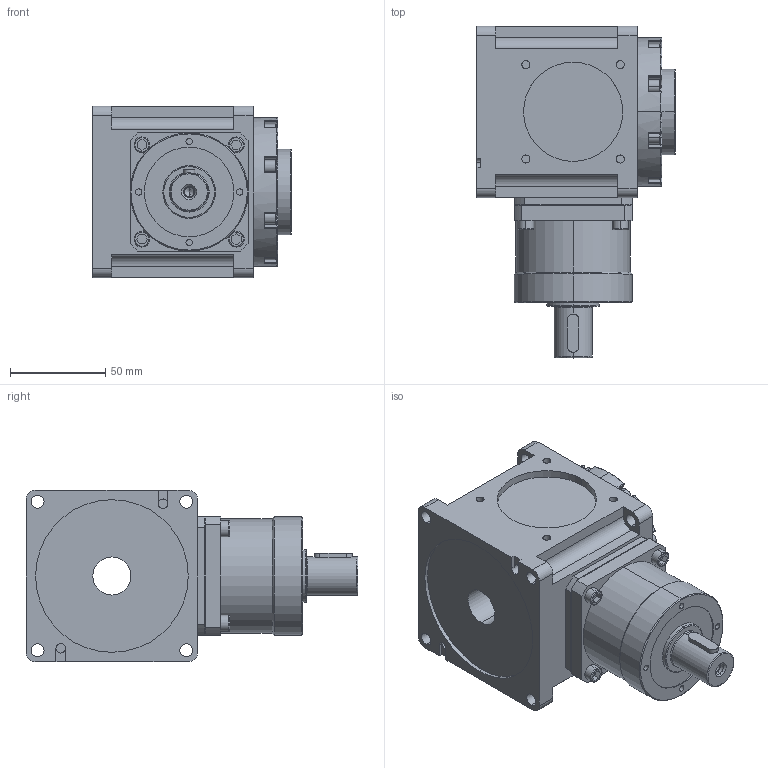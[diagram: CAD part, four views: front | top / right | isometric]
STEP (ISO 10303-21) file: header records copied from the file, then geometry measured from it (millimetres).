
FILE_DESCRIPTION (( 'STEP AP214' ), '1' );
FILE_NAME ('CCT090A-002-RF.STEP', '2025-06-03T02:27:03', ( '微软用户' ), ( '微软中国' ), 'SwSTEP 2.0', 'SolidWorks 2024', '' );
FILE_SCHEMA (( 'AUTOMOTIVE_DESIGN' ));
Length unit declared in the file: millimetre
Products named in the file (3): CCT090A-002-RF; CCW090A-002-FR箱体; CCW090A输入模块
Assembly tree (2 placements, depth 2):
  CCT090A-002-RF
    CCW090A-002-FR箱体
    CCW090A输入模块
Bounding box: 104 x 174 x 90 mm (x, y, z)
Volume: 803364.6 mm3; surface area: 89819.5 mm2
Topology: 2 solids, 2 shells, 498 faces, 1175 edges, 740 vertices
Faces by surface type: plane 211, cylinder 206, torus 39, cone 22, sphere 20
Entity records: 14435 total; most frequent: DIRECTION 2669, CARTESIAN_POINT 2520, ORIENTED_EDGE 2314, EDGE_CURVE 1157, AXIS2_PLACEMENT_3D 1029, VERTEX_POINT 732, VECTOR 611, LINE 611
